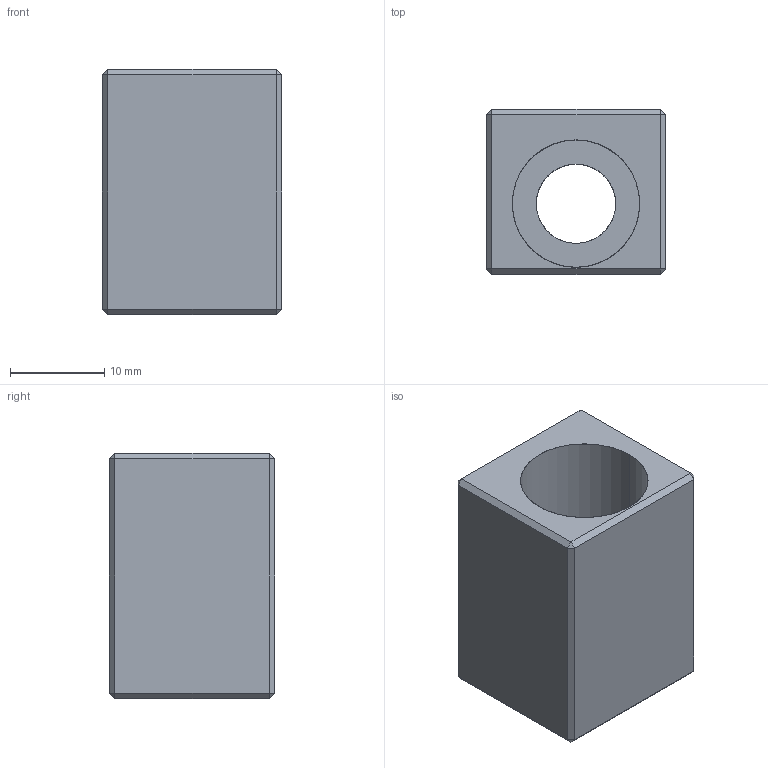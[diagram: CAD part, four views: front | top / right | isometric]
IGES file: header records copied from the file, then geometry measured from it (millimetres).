
Start section: SolidWorks IGES FILE using analytic representation for surfaces
Global section: file name: C:\WIX2\Positioning\3030\3030W245.igs; native system: SolidWorks 2003 by SolidWorks Corporation; preprocessor: Version 5.3; author: Joan; date: 030722.120015; units: millimetre
Bounding box: 19 x 17.5 x 26 mm (x, y, z)
Surface area: 3214.1 mm2 (no closed solid volume)
Topology: 0 solids, 0 shells, 31 faces, 240 edges, 240 vertices
Faces by surface type: bspline 27, revolution 4
